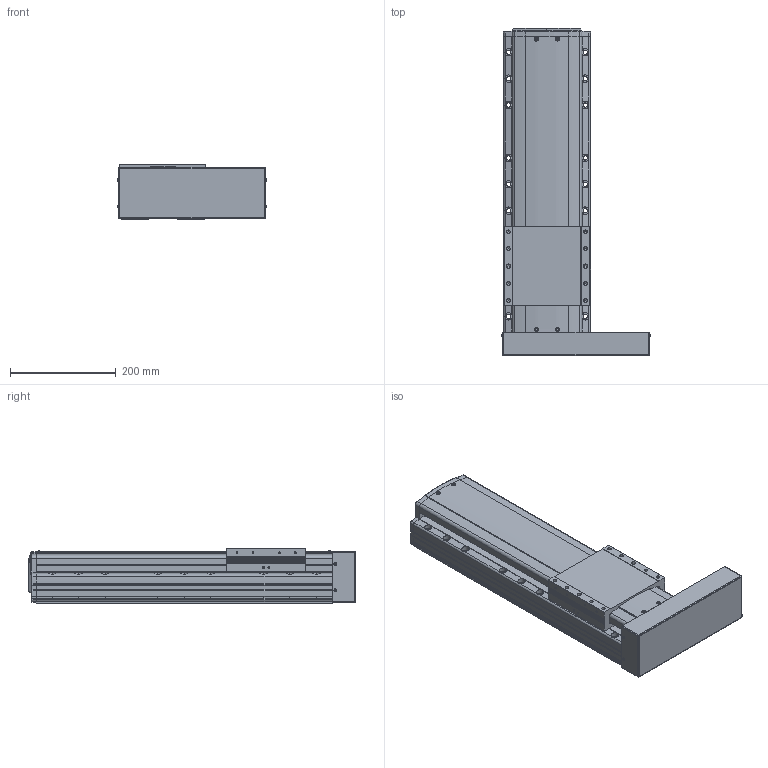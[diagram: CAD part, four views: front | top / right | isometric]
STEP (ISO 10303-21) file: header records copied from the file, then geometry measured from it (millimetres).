
FILE_DESCRIPTION(('STEP AP214'),'1');
FILE_NAME('Z:/Web/3D/PSA165/STP/PSA165-300 (3D)/PSA165ㅁㅁ-300PR.stp','2014-06-23T09:30:40',(' '),(' '),'Spatial InterOp 3D',' ',' ');
FILE_SCHEMA(('automotive_design'));
Length unit declared in the file: millimetre
Products named in the file (23): 스크루 : Round - M4.0 x 12.0; RRCV-PA160; BASE; 스크루 : Round - M4.0 x 10.0; RN15; Screw 20; SLIDE; FRCV; MTPL; 스크루 : Round - M3.0 x 6.0
Bounding box: 281.93 x 620.8 x 104 mm (x, y, z)
Volume: 9282341.1 mm3; surface area: 672970.3 mm2
Topology: 23 solids, 23 shells, 1951 faces, 5257 edges, 3353 vertices
Faces by surface type: plane 1076, cylinder 613, cone 177, sphere 44, bspline 25, torus 16
Entity records: 79587 total; most frequent: CARTESIAN_POINT 14318, DIRECTION 10363, ORIENTED_EDGE 10254, EDGE_CURVE 5127, LINE 3459, VECTOR 3459, AXIS2_PLACEMENT_3D 3452, VERTEX_POINT 3353
